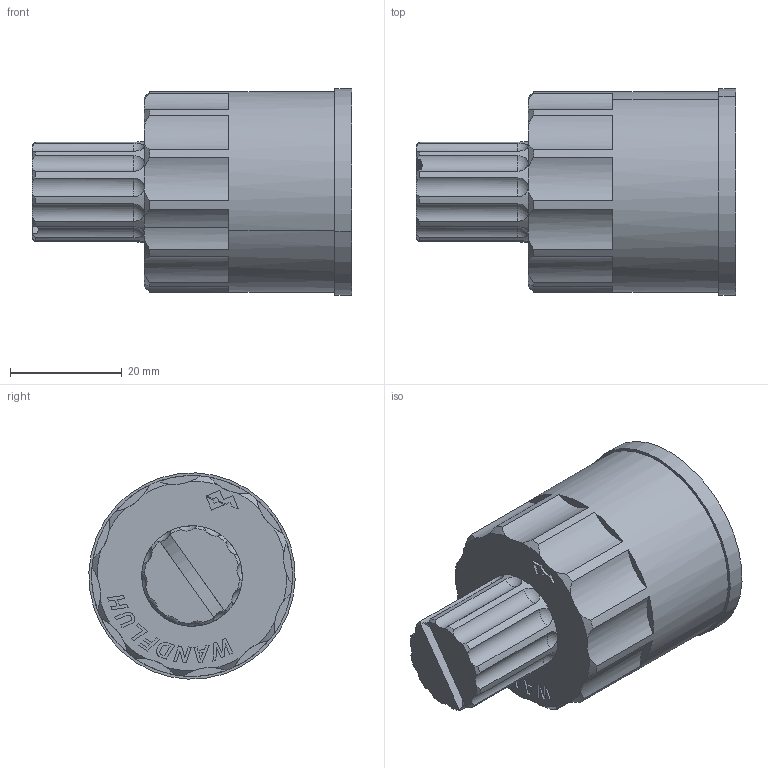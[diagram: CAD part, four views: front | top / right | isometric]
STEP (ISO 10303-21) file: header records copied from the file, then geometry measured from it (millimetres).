
FILE_DESCRIPTION (( 'STEP AP214' ), '1' );
FILE_NAME ('HF1.STEP', '2014-07-14T11:31:54', ( '' ), ( '' ), 'SwSTEP 2.0', 'SolidWorks 2014', '' );
FILE_SCHEMA (( 'AUTOMOTIVE_DESIGN' ));
Length unit declared in the file: millimetre
Products named in the file (2): HF1
Bounding box: 57.2 x 36.97 x 36.97 mm (x, y, z)
Volume: 28516.5 mm3; surface area: 11490.9 mm2
Topology: 3 solids, 3 shells, 243 faces, 663 edges, 436 vertices
Faces by surface type: plane 128, cylinder 47, cone 32, bspline 16, sphere 16, torus 4
Entity records: 11496 total; most frequent: CARTESIAN_POINT 2735, ORIENTED_EDGE 1300, DIRECTION 1188, EDGE_CURVE 650, VERTEX_POINT 431, AXIS2_PLACEMENT_3D 406, LINE 376, VECTOR 376
